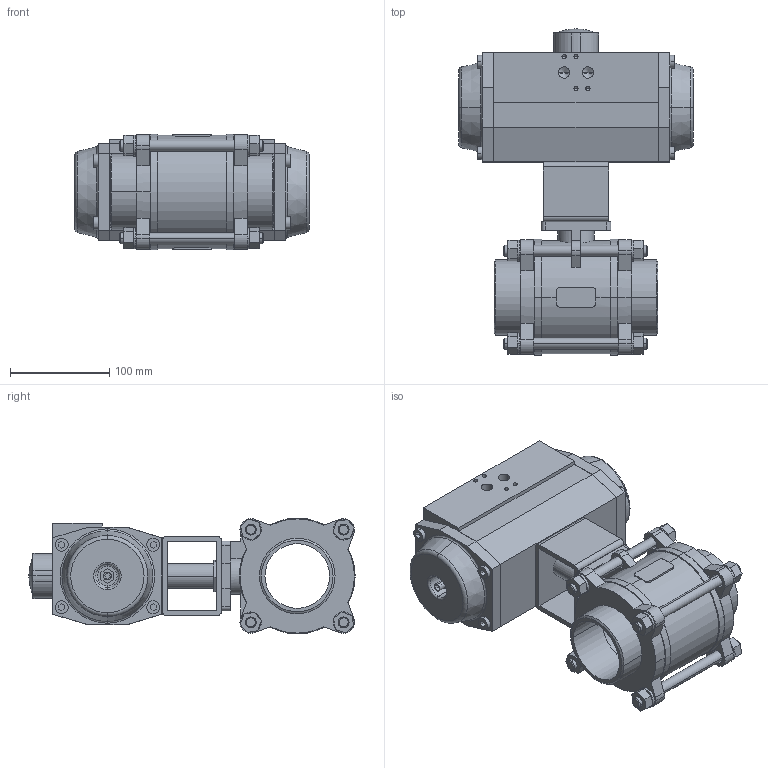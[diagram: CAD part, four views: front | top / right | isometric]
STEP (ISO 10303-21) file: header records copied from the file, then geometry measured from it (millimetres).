
FILE_DESCRIPTION (( 'STEP AP214' ), '1' );
FILE_NAME ('A13 DN65-2 1_2 BW + AP3.5D.STEP', '2012-04-23T09:20:40', ( '' ), ( '' ), 'SwSTEP 2.0', 'SolidWorks 2011', '' );
FILE_SCHEMA (( 'AUTOMOTIVE_DESIGN' ));
Length unit declared in the file: millimetre
Products named in the file (7): Brugstuk simplified_YB8060F7F7-3; A13 DN65 Buttweld; Draadeind DN65x145; A13 Flens Buttweld DN65; A13 KK DN65 PN63; A13 DN65-2 1_2 BW + AP3.5D; AP3.5_Default<As Machined>
Assembly tree (10 placements, depth 3):
  A13 DN65-2 1_2 BW + AP3.5D
    A13 DN65 Buttweld
      A13 Flens Buttweld DN65  x2
      Draadeind DN65x145  x4
      A13 KK DN65 PN63
    AP3.5_Default<As Machined>
    Brugstuk simplified_YB8060F7F7-3
Bounding box: 236 x 328.24 x 116.5 mm (x, y, z)
Volume: 3401673.1 mm3; surface area: 364320.5 mm2
Topology: 24 solids, 24 shells, 696 faces, 1651 edges, 1046 vertices
Faces by surface type: plane 390, cylinder 228, cone 60, torus 16, sphere 2
Entity records: 15751 total; most frequent: CARTESIAN_POINT 2635, DIRECTION 2542, ORIENTED_EDGE 2314, EDGE_CURVE 1157, AXIS2_PLACEMENT_3D 893, VECTOR 756, LINE 756, VERTEX_POINT 752
